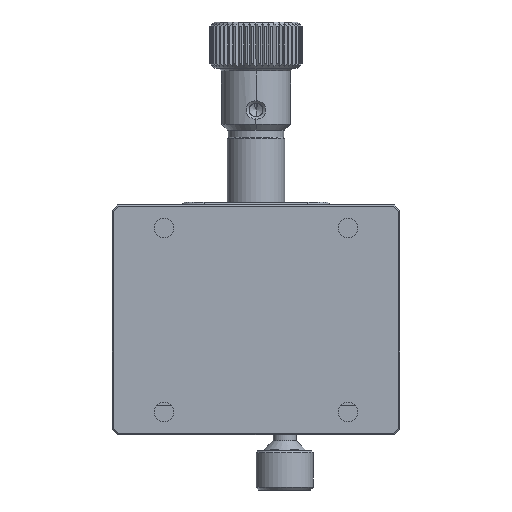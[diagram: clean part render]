
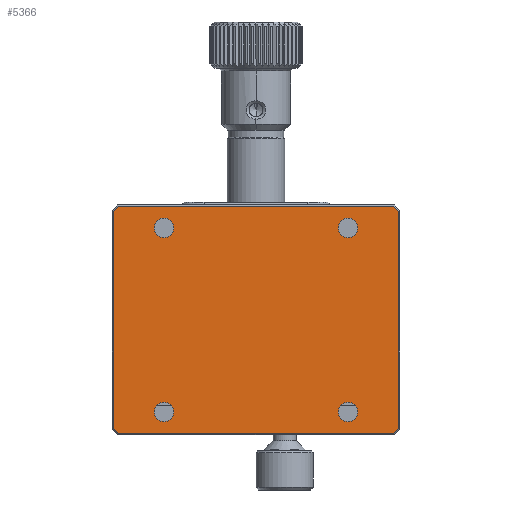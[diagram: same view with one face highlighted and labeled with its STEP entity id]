
A CAD part, front view. The second image highlights one B-rep face of the part: STEP entity #5366.
In plain terms, the highlighted planar face has unit normal (0, -1, 0).
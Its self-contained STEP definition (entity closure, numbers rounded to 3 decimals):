
#117=DIRECTION('',(0.707,0.,-0.707));
#118=VECTOR('',#117,1.249);
#119=CARTESIAN_POINT('',(-19.8,-14.5,-23.917));
#120=LINE('',#119,#118);
#121=DIRECTION('',(0.,0.,-1.));
#122=VECTOR('',#121,47.834);
#123=CARTESIAN_POINT('',(-19.8,-14.5,23.917));
#124=LINE('',#123,#122);
#125=DIRECTION('',(-0.707,0.,-0.707));
#126=VECTOR('',#125,1.249);
#127=CARTESIAN_POINT('',(-18.917,-14.5,24.8));
#128=LINE('',#127,#126);
#129=DIRECTION('',(-1.,0.,0.));
#130=VECTOR('',#129,37.834);
#131=CARTESIAN_POINT('',(18.917,-14.5,24.8));
#132=LINE('',#131,#130);
#133=DIRECTION('',(-0.707,0.,0.707));
#134=VECTOR('',#133,1.249);
#135=CARTESIAN_POINT('',(19.8,-14.5,23.917));
#136=LINE('',#135,#134);
#137=DIRECTION('',(0.,0.,1.));
#138=VECTOR('',#137,47.834);
#139=CARTESIAN_POINT('',(19.8,-14.5,-23.917));
#140=LINE('',#139,#138);
#141=DIRECTION('',(0.707,0.,0.707));
#142=VECTOR('',#141,1.249);
#143=CARTESIAN_POINT('',(18.917,-14.5,-24.8));
#144=LINE('',#143,#142);
#145=DIRECTION('',(1.,0.,0.));
#146=VECTOR('',#145,37.834);
#147=CARTESIAN_POINT('',(-18.917,-14.5,-24.8));
#148=LINE('',#147,#146);
#149=CARTESIAN_POINT('',(-16.,-14.5,-16.));
#150=DIRECTION('',(0.,1.,0.));
#151=DIRECTION('',(1.,0.,0.));
#152=AXIS2_PLACEMENT_3D('',#149,#150,#151);
#154=CARTESIAN_POINT('',(-16.,-14.5,-16.));
#155=DIRECTION('',(0.,1.,0.));
#156=DIRECTION('',(-1.,0.,0.));
#157=AXIS2_PLACEMENT_3D('',#154,#155,#156);
#159=CARTESIAN_POINT('',(16.,-14.5,-16.));
#160=DIRECTION('',(0.,1.,0.));
#161=DIRECTION('',(1.,0.,0.));
#162=AXIS2_PLACEMENT_3D('',#159,#160,#161);
#164=CARTESIAN_POINT('',(16.,-14.5,-16.));
#165=DIRECTION('',(0.,1.,0.));
#166=DIRECTION('',(-1.,0.,0.));
#167=AXIS2_PLACEMENT_3D('',#164,#165,#166);
#169=CARTESIAN_POINT('',(-16.,-14.5,16.));
#170=DIRECTION('',(0.,1.,0.));
#171=DIRECTION('',(1.,0.,0.));
#172=AXIS2_PLACEMENT_3D('',#169,#170,#171);
#174=CARTESIAN_POINT('',(-16.,-14.5,16.));
#175=DIRECTION('',(0.,1.,0.));
#176=DIRECTION('',(-1.,0.,0.));
#177=AXIS2_PLACEMENT_3D('',#174,#175,#176);
#179=CARTESIAN_POINT('',(16.,-14.5,16.));
#180=DIRECTION('',(0.,1.,0.));
#181=DIRECTION('',(1.,0.,0.));
#182=AXIS2_PLACEMENT_3D('',#179,#180,#181);
#184=CARTESIAN_POINT('',(16.,-14.5,16.));
#185=DIRECTION('',(0.,1.,0.));
#186=DIRECTION('',(-1.,0.,0.));
#187=AXIS2_PLACEMENT_3D('',#184,#185,#186);
#3893=CARTESIAN_POINT('',(-19.8,-14.5,-23.917));
#3894=CARTESIAN_POINT('',(-18.917,-14.5,-24.8));
#3895=VERTEX_POINT('',#3893);
#3896=VERTEX_POINT('',#3894);
#3903=CARTESIAN_POINT('',(18.917,-14.5,-24.8));
#3904=VERTEX_POINT('',#3903);
#3905=CARTESIAN_POINT('',(19.8,-14.5,-23.917));
#3906=VERTEX_POINT('',#3905);
#3911=CARTESIAN_POINT('',(19.8,-14.5,23.917));
#3912=VERTEX_POINT('',#3911);
#3913=CARTESIAN_POINT('',(18.917,-14.5,24.8));
#3914=VERTEX_POINT('',#3913);
#3919=CARTESIAN_POINT('',(-18.917,-14.5,24.8));
#3920=VERTEX_POINT('',#3919);
#3923=CARTESIAN_POINT('',(-19.8,-14.5,23.917));
#3924=VERTEX_POINT('',#3923);
#5101=CARTESIAN_POINT('',(-14.3,-14.5,-16.));
#5102=CARTESIAN_POINT('',(-17.7,-14.5,-16.));
#5103=VERTEX_POINT('',#5101);
#5104=VERTEX_POINT('',#5102);
#5105=CARTESIAN_POINT('',(17.7,-14.5,-16.));
#5106=CARTESIAN_POINT('',(14.3,-14.5,-16.));
#5107=VERTEX_POINT('',#5105);
#5108=VERTEX_POINT('',#5106);
#5109=CARTESIAN_POINT('',(-14.3,-14.5,16.));
#5110=CARTESIAN_POINT('',(-17.7,-14.5,16.));
#5111=VERTEX_POINT('',#5109);
#5112=VERTEX_POINT('',#5110);
#5113=CARTESIAN_POINT('',(17.7,-14.5,16.));
#5114=CARTESIAN_POINT('',(14.3,-14.5,16.));
#5115=VERTEX_POINT('',#5113);
#5116=VERTEX_POINT('',#5114);
#5322=CARTESIAN_POINT('',(0.,-14.5,0.));
#5323=DIRECTION('',(0.,1.,0.));
#5324=DIRECTION('',(1.,0.,0.));
#5325=AXIS2_PLACEMENT_3D('',#5322,#5323,#5324);
#5326=PLANE('',#5325);
#5328=ORIENTED_EDGE('',*,*,#5327,.F.);
#5330=ORIENTED_EDGE('',*,*,#5329,.F.);
#5331=ORIENTED_EDGE('',*,*,#5286,.F.);
#5332=ORIENTED_EDGE('',*,*,#5301,.F.);
#5333=ORIENTED_EDGE('',*,*,#5312,.F.);
#5335=ORIENTED_EDGE('',*,*,#5334,.F.);
#5337=ORIENTED_EDGE('',*,*,#5336,.F.);
#5339=ORIENTED_EDGE('',*,*,#5338,.F.);
#5340=EDGE_LOOP('',(#5328,#5330,#5331,#5332,#5333,#5335,#5337,#5339));
#5341=FACE_OUTER_BOUND('',#5340,.F.);
#5343=ORIENTED_EDGE('',*,*,#5342,.F.);
#5345=ORIENTED_EDGE('',*,*,#5344,.F.);
#5346=EDGE_LOOP('',(#5343,#5345));
#5347=FACE_BOUND('',#5346,.F.);
#5349=ORIENTED_EDGE('',*,*,#5348,.F.);
#5351=ORIENTED_EDGE('',*,*,#5350,.F.);
#5352=EDGE_LOOP('',(#5349,#5351));
#5353=FACE_BOUND('',#5352,.F.);
#5355=ORIENTED_EDGE('',*,*,#5354,.F.);
#5357=ORIENTED_EDGE('',*,*,#5356,.F.);
#5358=EDGE_LOOP('',(#5355,#5357));
#5359=FACE_BOUND('',#5358,.F.);
#5361=ORIENTED_EDGE('',*,*,#5360,.F.);
#5363=ORIENTED_EDGE('',*,*,#5362,.F.);
#5364=EDGE_LOOP('',(#5361,#5363));
#5365=FACE_BOUND('',#5364,.F.);
#5366=ADVANCED_FACE('',(#5341,#5347,#5353,#5359,#5365),#5326,.F.);
#153=CIRCLE('',#152,1.7);
#158=CIRCLE('',#157,1.7);
#163=CIRCLE('',#162,1.7);
#168=CIRCLE('',#167,1.7);
#173=CIRCLE('',#172,1.7);
#178=CIRCLE('',#177,1.7);
#183=CIRCLE('',#182,1.7);
#188=CIRCLE('',#187,1.7);
#5286=EDGE_CURVE('',#3920,#3924,#128,.T.);
#5301=EDGE_CURVE('',#3914,#3920,#132,.T.);
#5312=EDGE_CURVE('',#3912,#3914,#136,.T.);
#5327=EDGE_CURVE('',#3895,#3896,#120,.T.);
#5329=EDGE_CURVE('',#3924,#3895,#124,.T.);
#5334=EDGE_CURVE('',#3906,#3912,#140,.T.);
#5336=EDGE_CURVE('',#3904,#3906,#144,.T.);
#5338=EDGE_CURVE('',#3896,#3904,#148,.T.);
#5342=EDGE_CURVE('',#5103,#5104,#153,.T.);
#5344=EDGE_CURVE('',#5104,#5103,#158,.T.);
#5348=EDGE_CURVE('',#5107,#5108,#163,.T.);
#5350=EDGE_CURVE('',#5108,#5107,#168,.T.);
#5354=EDGE_CURVE('',#5111,#5112,#173,.T.);
#5356=EDGE_CURVE('',#5112,#5111,#178,.T.);
#5360=EDGE_CURVE('',#5115,#5116,#183,.T.);
#5362=EDGE_CURVE('',#5116,#5115,#188,.T.);
